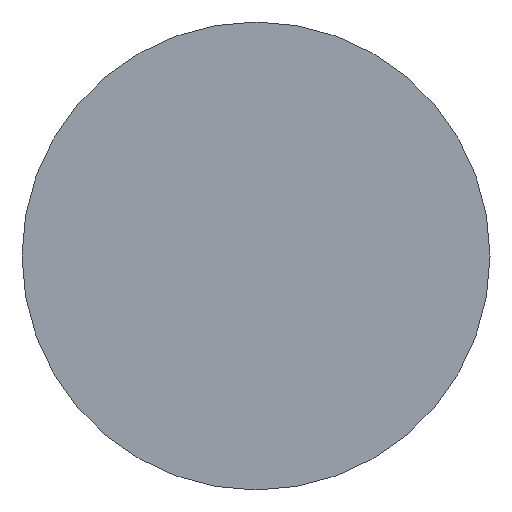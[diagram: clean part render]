
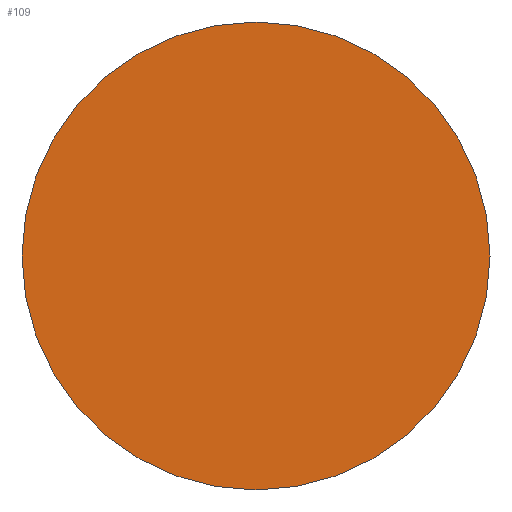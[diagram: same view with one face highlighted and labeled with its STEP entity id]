
A CAD part, front view. The second image highlights one B-rep face of the part: STEP entity #109.
In plain terms, the highlighted planar face has unit normal (0, -1, 0).
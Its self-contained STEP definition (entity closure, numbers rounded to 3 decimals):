
#31 = CYLINDRICAL_SURFACE('',#32,9.6);
#32 = AXIS2_PLACEMENT_3D('',#33,#34,#35);
#33 = CARTESIAN_POINT('',(0.,46.,81.5));
#34 = DIRECTION('',(0.,1.,0.));
#35 = DIRECTION('',(0.,-0.,1.));
#56 = VERTEX_POINT('',#57);
#57 = CARTESIAN_POINT('',(0.,46.,91.1));
#78 = EDGE_CURVE('',#56,#56,#79,.T.);
#79 = SURFACE_CURVE('',#80,(#85,#92),.PCURVE_S1.);
#80 = CIRCLE('',#81,9.6);
#81 = AXIS2_PLACEMENT_3D('',#82,#83,#84);
#82 = CARTESIAN_POINT('',(0.,46.,81.5));
#83 = DIRECTION('',(0.,1.,0.));
#84 = DIRECTION('',(0.,-0.,1.));
#85 = PCURVE('',#31,#86);
#86 = DEFINITIONAL_REPRESENTATION('',(#87),#91);
#87 = LINE('',#88,#89);
#88 = CARTESIAN_POINT('',(0.,0.));
#89 = VECTOR('',#90,1.);
#90 = DIRECTION('',(1.,0.));
#91 = ( GEOMETRIC_REPRESENTATION_CONTEXT(2) 
PARAMETRIC_REPRESENTATION_CONTEXT() REPRESENTATION_CONTEXT('2D SPACE',''
  ) );
#92 = PCURVE('',#93,#98);
#93 = PLANE('',#94);
#94 = AXIS2_PLACEMENT_3D('',#95,#96,#97);
#95 = CARTESIAN_POINT('',(0.,46.,81.5));
#96 = DIRECTION('',(0.,1.,0.));
#97 = DIRECTION('',(0.,-0.,1.));
#98 = DEFINITIONAL_REPRESENTATION('',(#99),#103);
#99 = CIRCLE('',#100,9.6);
#100 = AXIS2_PLACEMENT_2D('',#101,#102);
#101 = CARTESIAN_POINT('',(0.,0.));
#102 = DIRECTION('',(1.,0.));
#103 = ( GEOMETRIC_REPRESENTATION_CONTEXT(2) 
PARAMETRIC_REPRESENTATION_CONTEXT() REPRESENTATION_CONTEXT('2D SPACE',''
  ) );
#109 = ADVANCED_FACE('',(#110),#93,.F.);
#110 = FACE_BOUND('',#111,.T.);
#111 = EDGE_LOOP('',(#112));
#112 = ORIENTED_EDGE('',*,*,#78,.F.);
